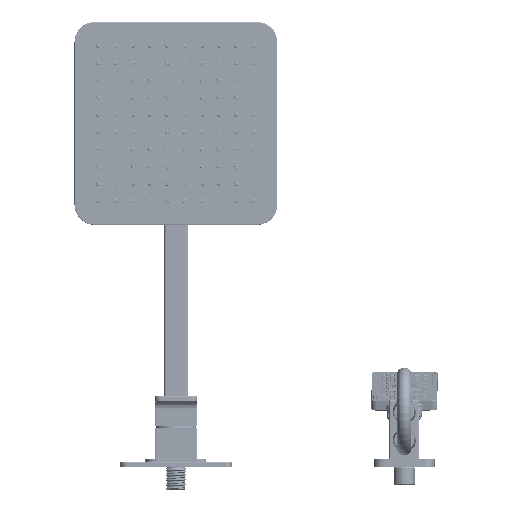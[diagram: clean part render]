
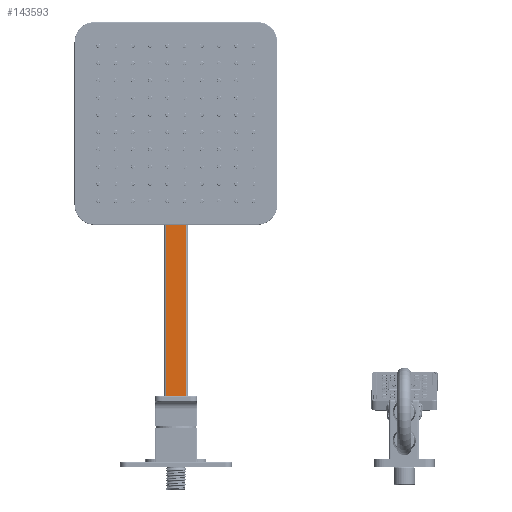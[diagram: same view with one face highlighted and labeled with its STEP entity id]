
A CAD part, front view. The second image highlights one B-rep face of the part: STEP entity #143593.
In plain terms, the highlighted planar face has unit normal (0, -1, 0).
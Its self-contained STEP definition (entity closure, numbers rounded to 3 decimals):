
#10429=FACE_OUTER_BOUND('',#19245,.T.);
#19245=EDGE_LOOP('',(#97873,#97874,#97875,#97876));
#39862=LINE('',#225271,#49453);
#39869=LINE('',#225295,#49460);
#39870=LINE('',#225301,#49461);
#39871=LINE('',#225306,#49462);
#49453=VECTOR('',#173362,19.5);
#49460=VECTOR('',#173385,298.25);
#49461=VECTOR('',#173394,19.5);
#49462=VECTOR('',#173403,298.25);
#59192=VERTEX_POINT('',#225268);
#59193=VERTEX_POINT('',#225270);
#59202=VERTEX_POINT('',#225294);
#59203=VERTEX_POINT('',#225300);
#73962=EDGE_CURVE('',#59192,#59193,#39862,.T.);
#73974=EDGE_CURVE('',#59193,#59202,#39869,.T.);
#73977=EDGE_CURVE('',#59203,#59202,#39870,.T.);
#73980=EDGE_CURVE('',#59192,#59203,#39871,.T.);
#97873=ORIENTED_EDGE('',*,*,#73974,.F.);
#97874=ORIENTED_EDGE('',*,*,#73962,.F.);
#97875=ORIENTED_EDGE('',*,*,#73980,.T.);
#97876=ORIENTED_EDGE('',*,*,#73977,.T.);
#140728=PLANE('',#152961);
#143593=ADVANCED_FACE('',(#10429),#140728,.T.);
#152961=AXIS2_PLACEMENT_3D('',#225307,#173404,#173405);
#173362=DIRECTION('',(-1.,0.,0.));
#173385=DIRECTION('',(0.,0.,1.));
#173394=DIRECTION('',(-1.,0.,0.));
#173403=DIRECTION('',(0.,0.,1.));
#173404=DIRECTION('center_axis',(0.,-1.,0.));
#173405=DIRECTION('ref_axis',(-1.,0.,0.));
#225268=CARTESIAN_POINT('',(21.5,364.5,-44.));
#225270=CARTESIAN_POINT('',(2.,364.5,-44.));
#225271=CARTESIAN_POINT('',(21.5,364.5,-44.));
#225294=CARTESIAN_POINT('',(2.,364.5,254.25));
#225295=CARTESIAN_POINT('',(2.,364.5,-44.));
#225300=CARTESIAN_POINT('',(21.5,364.5,254.25));
#225301=CARTESIAN_POINT('',(21.5,364.5,254.25));
#225306=CARTESIAN_POINT('',(21.5,364.5,-44.));
#225307=CARTESIAN_POINT('Origin',(11.75,364.5,105.125));
